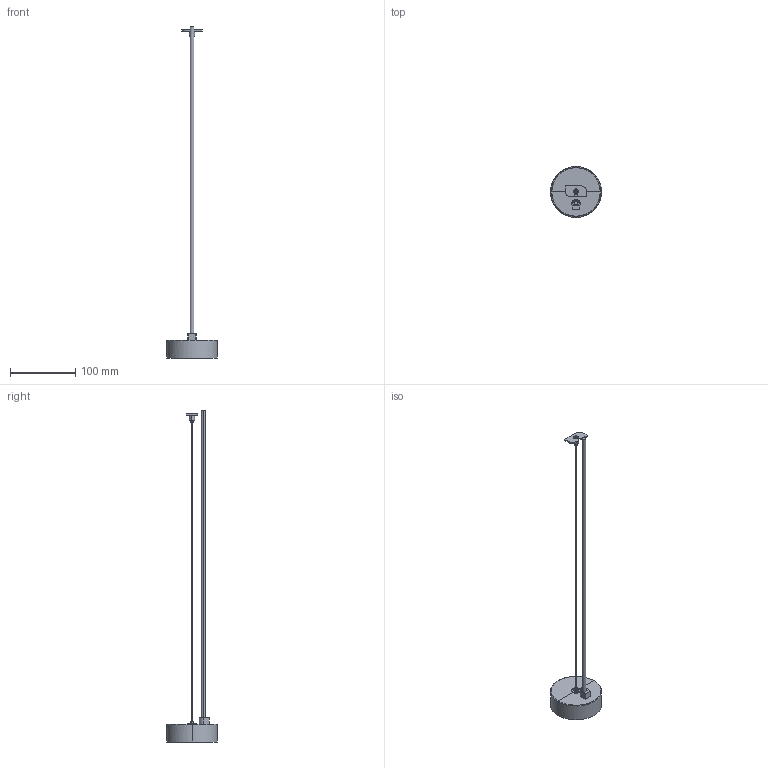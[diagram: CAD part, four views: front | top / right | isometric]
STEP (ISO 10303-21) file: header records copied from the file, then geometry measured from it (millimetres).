
FILE_DESCRIPTION(/* description */ (''),/* implementation_level */ '2;1');
FILE_NAME(/* name */ 'C:\Users\FrancoSartori\Documents\FARO\01_En Proceso\0000_2022\000_PRO\00_NESO\01_RFA_3D_Trabajo\Accessory_kit_pendant\Accessory_kit_pendant.stp',/* time_stamp */ '2022-07-22T13:01:06+02:00',/* author */ ('FrancoSartori'),/* organization */ (''),/* preprocessor_version */ 'ST-DEVELOPER v19',/* originating_system */ 'AutoCAD Mechanical',/* authorisation */ '');
FILE_SCHEMA (('AUTOMOTIVE_DESIGN { 1 0 10303 214 3 1 1 }'));
Length unit declared in the file: millimetre
Products named in the file (3): Product; KP_SP - SP-445020-View 1; KP_LAMP_SP - LAMP-444992-View 1
Assembly tree (2 placements, depth 2):
  Product
    KP_SP - SP-445020-View 1
    KP_LAMP_SP - LAMP-444992-View 1
Bounding box: 78 x 78 x 508 mm (x, y, z)
Volume: 39936.5 mm3; surface area: 39078.7 mm2
Topology: 7 solids, 7 shells, 102 faces, 238 edges, 148 vertices
Faces by surface type: plane 57, cylinder 39, torus 6
Entity records: 3308 total; most frequent: CARTESIAN_POINT 875, DIRECTION 500, ORIENTED_EDGE 476, EDGE_CURVE 238, AXIS2_PLACEMENT_3D 181, VERTEX_POINT 148, LINE 138, VECTOR 138
